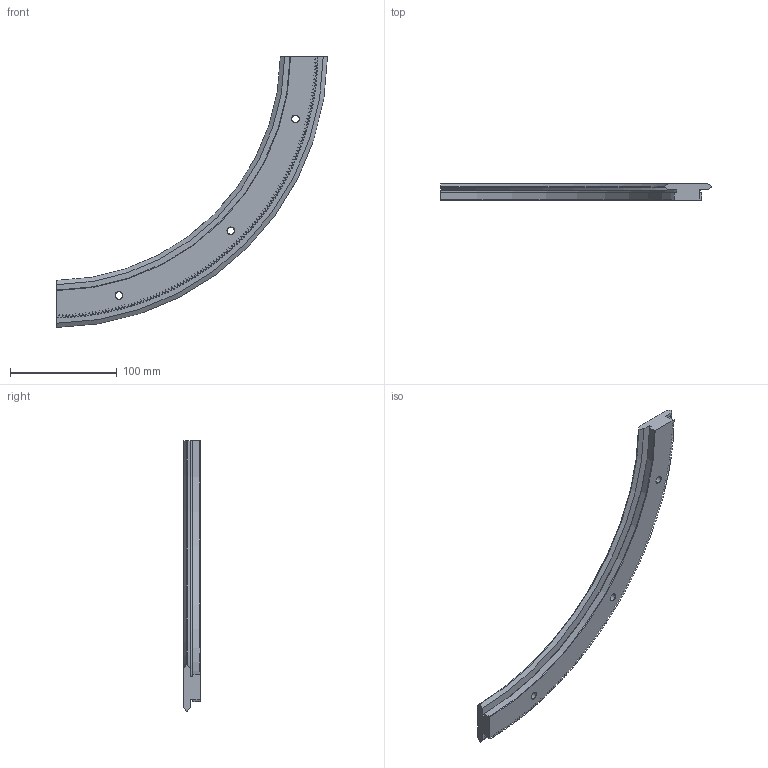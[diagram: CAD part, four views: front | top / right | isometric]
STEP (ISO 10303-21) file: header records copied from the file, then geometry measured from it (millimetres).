
FILE_DESCRIPTION( ( 'STEP AP203' ), '1' );
FILE_NAME( 'p:/temp/worker_34/temp/exporttempdir_3528_576_oV5ZF/format_0/R44 468 R90 P.stp', '2021-07-19T05:40:35', ( 'License CC BY-ND 4.0' ), ( 'CADENAS' ), ' ', 'PARTsolutions', ' ' );
FILE_SCHEMA( ( 'CONFIG_CONTROL_DESIGN' ) );
Length unit declared in the file: millimetre
Products named in the file (1): _R44 468 R90 P
Bounding box: 254.09 x 15.5 x 254.09 mm (x, y, z)
Volume: 167635.4 mm3; surface area: 48836.6 mm2
Topology: 1 solids, 1 shells, 760 faces, 2020 edges, 1265 vertices
Faces by surface type: plane 497, cylinder 131, cone 130, torus 2
Full cylindrical faces by diameter (mm): 6.8 x3, 11 x3
Entity records: 23681 total; most frequent: CARTESIAN_POINT 4821, ORIENTED_EDGE 4022, DIRECTION 3913, EDGE_CURVE 2011, AXIS2_PLACEMENT_3D 1399, VERTEX_POINT 1265, LINE 1115, VECTOR 1115
